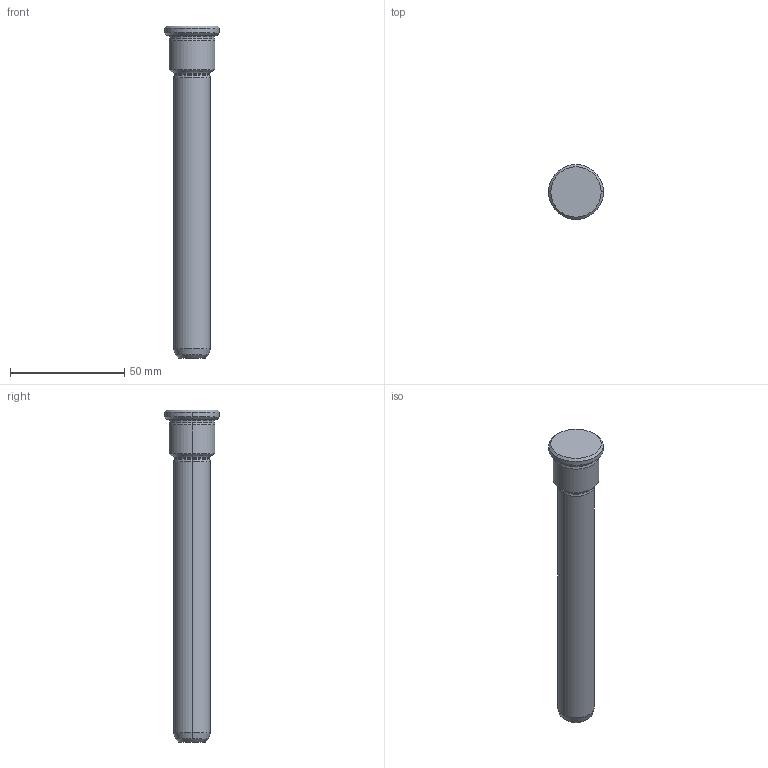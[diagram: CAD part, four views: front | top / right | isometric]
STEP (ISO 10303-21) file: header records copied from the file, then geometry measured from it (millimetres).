
FILE_DESCRIPTION (( 'STEP AP214' ), '1' );
FILE_NAME ('BRGC 16x20x125.STEP', '2019-12-19T09:43:13', ( 'August' ), ( '' ), 'SwSTEP 2.0', 'SolidWorks 2018', '' );
FILE_SCHEMA (( 'AUTOMOTIVE_DESIGN' ));
Length unit declared in the file: millimetre
Products named in the file (1): BRGC 16x20x125
Bounding box: 24 x 24 x 145 mm (x, y, z)
Volume: 31684 mm3; surface area: 8278.7 mm2
Topology: 1 solids, 1 shells, 36 faces, 70 edges, 38 vertices
Faces by surface type: cone 14, cylinder 10, torus 8, plane 4
Entity records: 946 total; most frequent: DIRECTION 190, CARTESIAN_POINT 145, ORIENTED_EDGE 140, AXIS2_PLACEMENT_3D 83, EDGE_CURVE 70, CIRCLE 46, VERTEX_POINT 38, EDGE_LOOP 38
